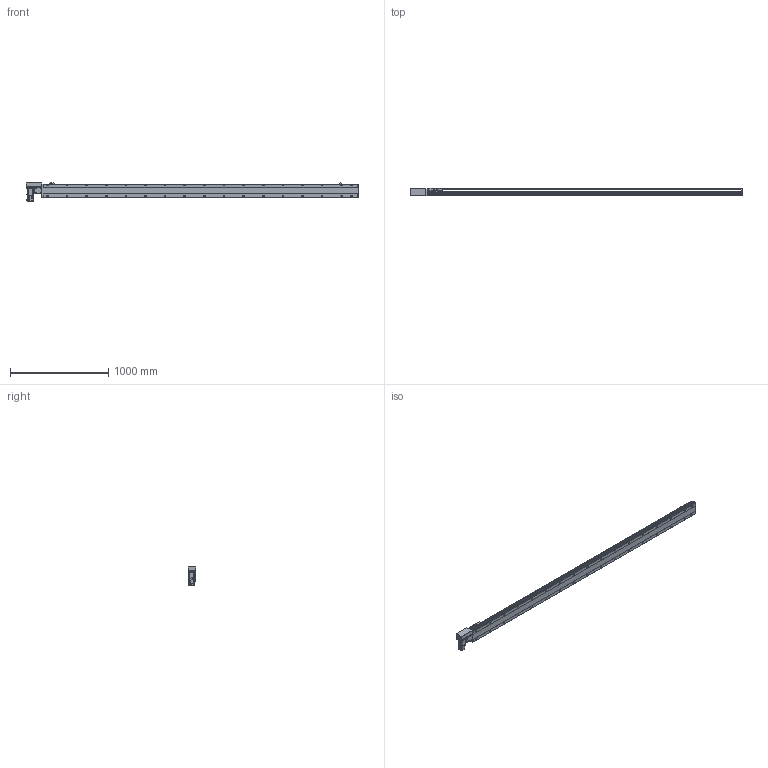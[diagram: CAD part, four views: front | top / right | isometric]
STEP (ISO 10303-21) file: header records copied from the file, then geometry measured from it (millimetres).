
FILE_DESCRIPTION(/* description */ ('STEP AP214'),/* implementation_level */ '2;1');
FILE_NAME(/* name */ 'PBS140-P40-S2950-R-T40-C1-N(0)',/* time_stamp */ '2022-06-06T03:32:10+02:00',/* author */ ('License CC BY-ND 4.0'),/* organization */ ('CADENAS'),/* preprocessor_version */ 'ST-DEVELOPER v18.102',/* originating_system */ 'PARTsolutions',/* authorisation */ ' ');
FILE_SCHEMA (('AUTOMOTIVE_DESIGN {1 0 10303 214 3 1 1}'));
Length unit declared in the file: millimetre
Products named in the file (7): PBS140-P40-S2950-R-T40-C1-N(0); PBS140_sensor; PBS140_plant; PBS140_sliser; T40-p1; PBS140T-R_motors; PBS140-S2950()_body
Assembly tree (8 placements, depth 2):
  PBS140-P40-S2950-R-T40-C1-N(0)
    PBS140_sensor  x3
    PBS140_plant
    PBS140_sliser
    T40-p1
    PBS140T-R_motors
    PBS140-S2950()_body
Bounding box: 3383 x 80.5 x 189.7 mm (x, y, z)
Volume: 14686138.2 mm3; surface area: 2492400 mm2
Topology: 8 solids, 8 shells, 1219 faces, 3196 edges, 2087 vertices
Faces by surface type: plane 746, cylinder 403, cone 60, sphere 8, torus 2
Full cylindrical faces by diameter (mm): 3.242 x4, 4 x2, 4.134 x4, 4.4 x8, 4.5 x2, 4.8 x4, 4.917 x42, 5.5 x7, 6 x2, 7 x36, 7.5 x8, 8 x12, 8.5 x4, 10.5 x34, 14 x1, 30 x2, 50 x2
Entity records: 34767 total; most frequent: CARTESIAN_POINT 6673, DIRECTION 5827, ORIENTED_EDGE 5452, EDGE_CURVE 2726, AXIS2_PLACEMENT_3D 2077, VERTEX_POINT 1917, LINE 1673, VECTOR 1673
